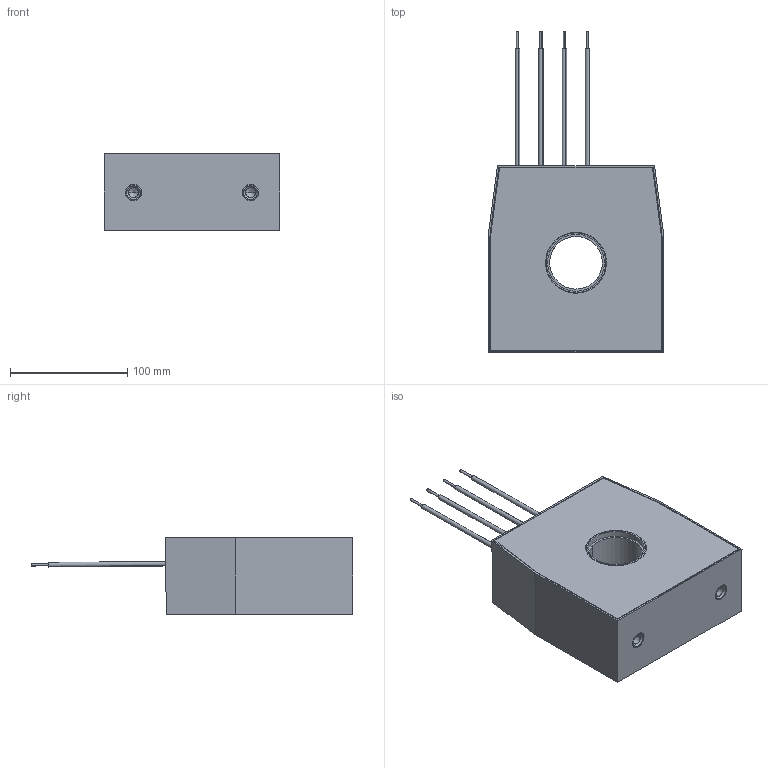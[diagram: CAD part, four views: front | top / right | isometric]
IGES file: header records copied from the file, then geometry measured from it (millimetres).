
Start section: IGES file generated from Kompas f.0 for Windows drawing by the IGES translator from Ascon Ltd., translator version IGESOUT-5.1.
Global section: file name: C:\Ðàáîòà\Èçâåùåíèÿ 5\ÒØÏ-ÍÒÇ-0.66-61...,71...,81... (ñáîðíûé)\Âåðñèÿ îò 21.05.24\3D ìîäåëü\ÒØÏ-ÍÒÇ-0,66-61Ñ\ÒØÏ-ÍÒÇ-0,66-61Ñ (45 ìì, 1-é ãàáàðèò).igs; native system: Kompas( 32 bit ) for Windows; preprocessor: 1.0; author: 123; organization: Microsoft; date: -17750727:092236; units: millimetre
Bounding box: 150 x 274.81 x 65 mm (x, y, z)
Volume: 339423.3 mm3; surface area: 196063.9 mm2
Topology: 9 solids, 9 shells, 162 faces, 350 edges, 222 vertices
Faces by surface type: revolution 94, bspline 68
